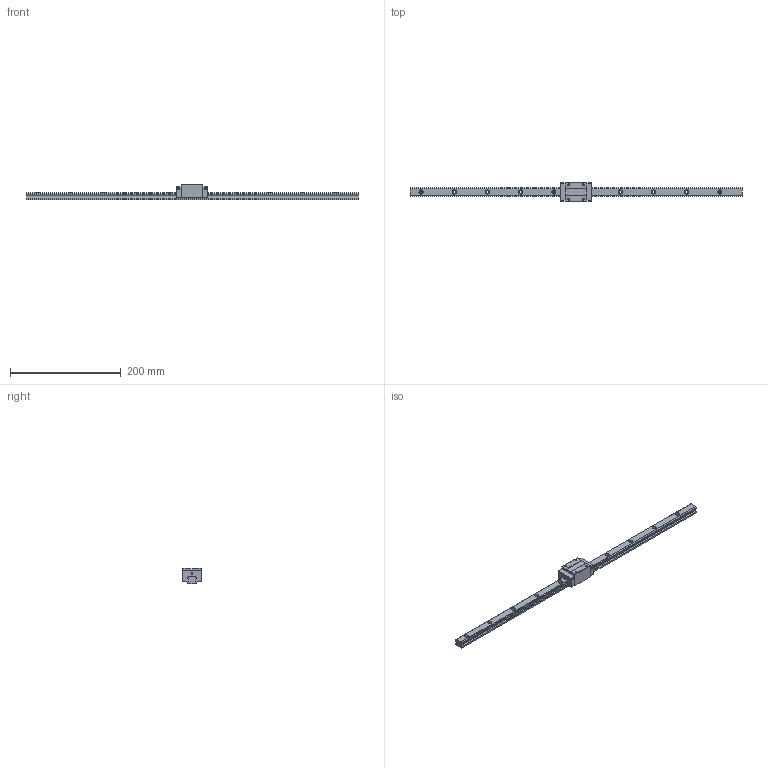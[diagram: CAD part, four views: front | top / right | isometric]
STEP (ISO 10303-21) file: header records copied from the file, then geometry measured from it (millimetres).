
FILE_DESCRIPTION (( 'STEP AP203' ), '1' );
FILE_NAME ('TRH15VN-XN.STEP', '2024-05-23T03:07:48', ( '' ), ( '' ), 'SwSTEP 2.0', 'SolidWorks 2022', '' );
FILE_SCHEMA (( 'CONFIG_CONTROL_DESIGN' ));
Length unit declared in the file: millimetre
Products named in the file (1): TRH15VN-XN
Bounding box: 600 x 34 x 28 mm (x, y, z)
Volume: 137814.8 mm3; surface area: 46726.3 mm2
Topology: 2 solids, 2 shells, 200 faces, 520 edges, 336 vertices
Faces by surface type: cylinder 96, plane 88, cone 16
Entity records: 6223 total; most frequent: DIRECTION 1114, CARTESIAN_POINT 1049, ORIENTED_EDGE 1024, EDGE_CURVE 512, AXIS2_PLACEMENT_3D 401, VERTEX_POINT 336, LINE 312, VECTOR 312
